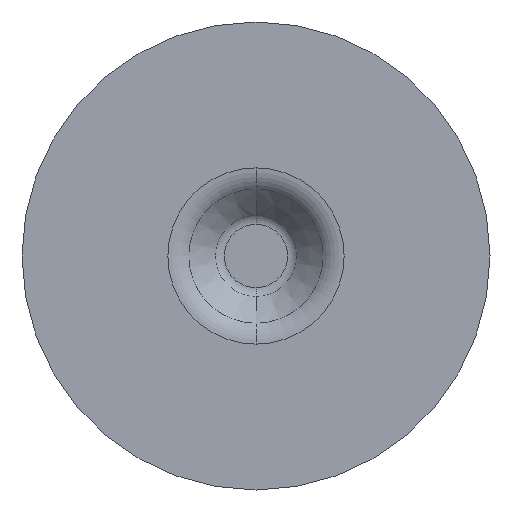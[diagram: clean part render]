
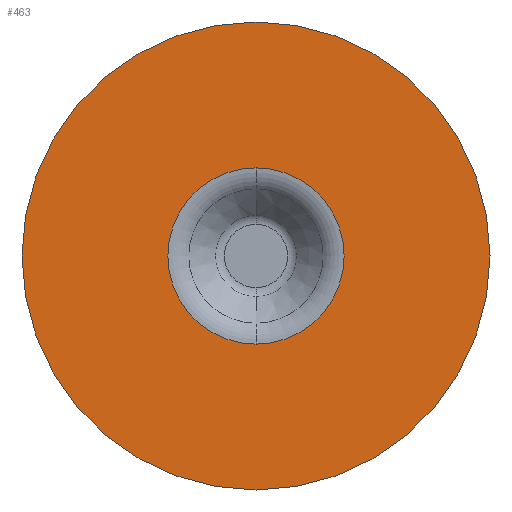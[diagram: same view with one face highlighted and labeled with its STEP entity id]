
A CAD part, front view. The second image highlights one B-rep face of the part: STEP entity #463.
In plain terms, the highlighted planar face has unit normal (0, -1, 0).
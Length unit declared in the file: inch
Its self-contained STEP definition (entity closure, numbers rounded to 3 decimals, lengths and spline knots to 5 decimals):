
#11 = CARTESIAN_POINT ( 'NONE',  ( 0., -0.203, -0.37678 ) ) ;
#14 = ORIENTED_EDGE ( 'NONE', *, *, #204, .F. ) ;
#15 = VERTEX_POINT ( 'NONE', #314 ) ;
#19 = DIRECTION ( 'NONE',  ( 0., 1., 0. ) ) ;
#47 = AXIS2_PLACEMENT_3D ( 'NONE', #506, #250, #285 ) ;
#64 = CIRCLE ( 'NONE', #471, 0.37678 ) ;
#129 = DIRECTION ( 'NONE',  ( 0., 1., 0. ) ) ;
#136 = VERTEX_POINT ( 'NONE', #11 ) ;
#139 = ORIENTED_EDGE ( 'NONE', *, *, #441, .T. ) ;
#153 = CARTESIAN_POINT ( 'NONE',  ( 0., -0.203, 1. ) ) ;
#184 = VERTEX_POINT ( 'NONE', #153 ) ;
#190 = CIRCLE ( 'NONE', #237, 0.37678 ) ;
#199 = CARTESIAN_POINT ( 'NONE',  ( 0., -0.203, 0.37678 ) ) ;
#204 = EDGE_CURVE ( 'NONE', #15, #184, #282, .T. ) ;
#207 = CARTESIAN_POINT ( 'NONE',  ( 0.37678, -0.203, 0. ) ) ;
#212 = FACE_BOUND ( 'NONE', #437, .T. ) ;
#230 = CIRCLE ( 'NONE', #47, 1. ) ;
#237 = AXIS2_PLACEMENT_3D ( 'NONE', #396, #19, #349 ) ;
#250 = DIRECTION ( 'NONE',  ( 0., 1., 0. ) ) ;
#263 = VERTEX_POINT ( 'NONE', #199 ) ;
#268 = EDGE_CURVE ( 'NONE', #136, #263, #190, .T. ) ;
#282 = CIRCLE ( 'NONE', #469, 1. ) ;
#285 = DIRECTION ( 'NONE',  ( 0., 0., 1. ) ) ;
#292 = CARTESIAN_POINT ( 'NONE',  ( 0., -0.203, 0. ) ) ;
#299 = ORIENTED_EDGE ( 'NONE', *, *, #268, .T. ) ;
#314 = CARTESIAN_POINT ( 'NONE',  ( 0., -0.203, -1. ) ) ;
#320 = EDGE_LOOP ( 'NONE', ( #387, #14 ) ) ;
#326 = AXIS2_PLACEMENT_3D ( 'NONE', #207, #129, #381 ) ;
#349 = DIRECTION ( 'NONE',  ( 0., 0., 1. ) ) ;
#373 = EDGE_CURVE ( 'NONE', #184, #15, #230, .T. ) ;
#381 = DIRECTION ( 'NONE',  ( 0., 0., 1. ) ) ;
#387 = ORIENTED_EDGE ( 'NONE', *, *, #373, .F. ) ;
#391 = FACE_OUTER_BOUND ( 'NONE', #320, .T. ) ;
#396 = CARTESIAN_POINT ( 'NONE',  ( 0., -0.203, 0. ) ) ;
#411 = CARTESIAN_POINT ( 'NONE',  ( 0., -0.203, 0. ) ) ;
#421 = DIRECTION ( 'NONE',  ( 0., 0., 1. ) ) ;
#427 = PLANE ( 'NONE',  #326 ) ;
#431 = DIRECTION ( 'NONE',  ( 0., 1., 0. ) ) ;
#437 = EDGE_LOOP ( 'NONE', ( #139, #299 ) ) ;
#441 = EDGE_CURVE ( 'NONE', #263, #136, #64, .T. ) ;
#463 = ADVANCED_FACE ( 'NONE', ( #391, #212 ), #427, .F. ) ;
#469 = AXIS2_PLACEMENT_3D ( 'NONE', #411, #491, #523 ) ;
#471 = AXIS2_PLACEMENT_3D ( 'NONE', #292, #431, #421 ) ;
#491 = DIRECTION ( 'NONE',  ( 0., 1., 0. ) ) ;
#506 = CARTESIAN_POINT ( 'NONE',  ( 0., -0.203, 0. ) ) ;
#523 = DIRECTION ( 'NONE',  ( 0., 0., 1. ) ) ;
